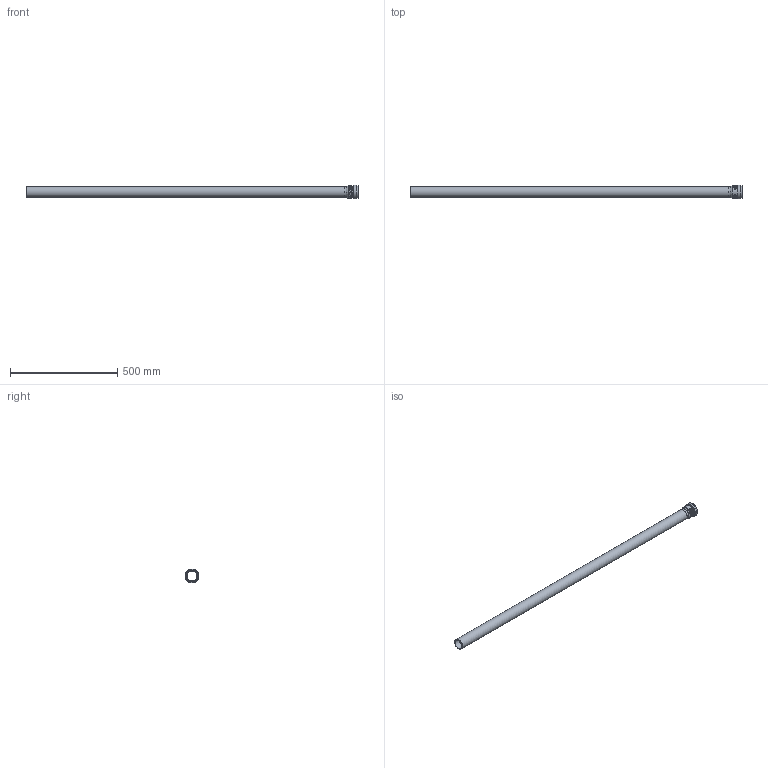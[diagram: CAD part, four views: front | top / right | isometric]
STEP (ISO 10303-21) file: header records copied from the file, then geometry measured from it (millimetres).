
FILE_DESCRIPTION(/* description */ (''),/* implementation_level */ '2;1');
FILE_NAME(/* name */ 'H:\Geberit-Teile\Export\PP_Rohr\stp\393205.stp',/* time_stamp */ '2017-02-13T16:05:26+01:00',/* author */ ('seihe2'),/* organization */ (''),/* preprocessor_version */ 'ST-DEVELOPER v15.2',/* originating_system */ 'Autodesk Inventor 2014',/* authorisation */ '');
FILE_SCHEMA (('AUTOMOTIVE_DESIGN { 1 0 10303 214 3 1 1 }'));
Length unit declared in the file: millimetre
Products named in the file (1): 393205
Bounding box: 1550.8 x 65.1 x 65.1 mm (x, y, z)
Volume: 700451.5 mm3; surface area: 471204.9 mm2
Topology: 2 solids, 2 shells, 38 faces, 82 edges, 57 vertices
Faces by surface type: torus 16, cylinder 10, plane 8, cone 2, bspline 2
Full cylindrical faces by diameter (mm): 44.15 x2, 50.15 x2, 50.8 x1, 52 x1, 56.3 x1, 57.5 x1, 59.9 x1, 65.1 x1
Entity records: 2101 total; most frequent: CARTESIAN_POINT 1309, DIRECTION 132, ORIENTED_EDGE 130, EDGE_LOOP 68, AXIS2_PLACEMENT_3D 66, EDGE_CURVE 65, VERTEX_POINT 57, STYLED_ITEM 40
